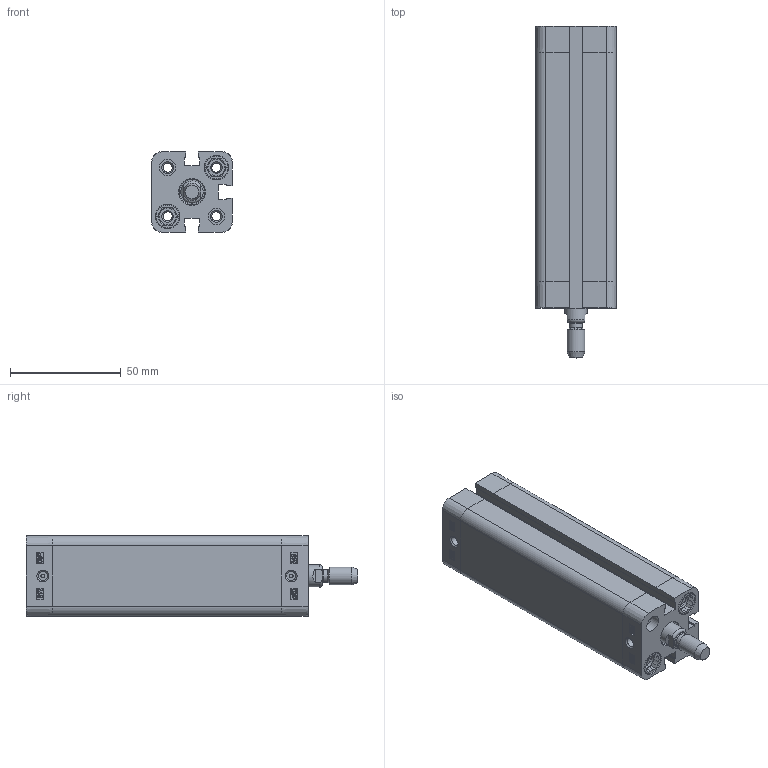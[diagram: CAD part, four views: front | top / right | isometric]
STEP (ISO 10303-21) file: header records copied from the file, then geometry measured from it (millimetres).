
FILE_DESCRIPTION((''),'2;1');
FILE_NAME('T:\Archivio Inventor\- CATALOGHI 2012\SERIE P - NUOVA\PDM\PDM020\PDM020.---.GS.M\STEP\PDM020.090.GS.M.stp','2013-01-30T10:59:17',('Administrator'),(''),'Autodesk Inventor 2012','Autodesk Inventor 2012','');
FILE_SCHEMA(('CONFIG_CONTROL_DESIGN'));
Length unit declared in the file: millimetre
Products named in the file (1): PDM020.090.GS.M
Bounding box: 36.3 x 149.6 x 36.3 mm (x, y, z)
Volume: 86276.1 mm3; surface area: 49802.7 mm2
Topology: 1 solids, 3 shells, 489 faces, 1225 edges, 798 vertices
Faces by surface type: plane 245, bspline 94, cylinder 88, cone 50, torus 12
Full cylindrical faces by diameter (mm): 1.75 x2, 4.134 x10, 5.8 x1, 7.5 x4, 7.55 x2, 8 x9, 9 x1, 10 x1, 10.8 x4, 11.1 x4, 11.4 x1, 20 x1, 22.3 x1, 22.5 x1
Entity records: 15051 total; most frequent: CARTESIAN_POINT 3734, ORIENTED_EDGE 2232, DIRECTION 1950, EDGE_CURVE 1116, VERTEX_POINT 782, VECTOR 670, LINE 670, EDGE_LOOP 652
